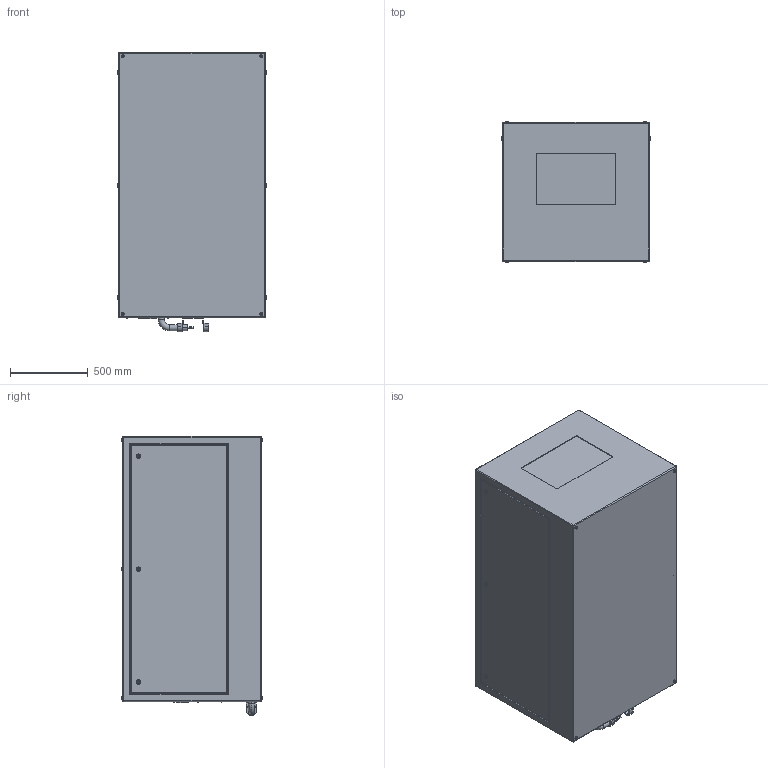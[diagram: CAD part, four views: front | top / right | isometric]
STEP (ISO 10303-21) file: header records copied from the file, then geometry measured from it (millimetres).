
FILE_DESCRIPTION (( 'STEP AP214' ), '1' );
FILE_NAME ('Oasis 59.525.L R02.STEP', '2022-08-27T16:13:57', ( '' ), ( '' ), 'SwSTEP 2.0', 'SolidWorks 2020', '' );
FILE_SCHEMA (( 'AUTOMOTIVE_DESIGN' ));
Length unit declared in the file: inch
Products named in the file (1): Oasis 59.525.L R02
Bounding box: 952.5 x 906.27 x 1790.7 mm (x, y, z)
Volume: 1420515863.5 mm3; surface area: 8417593.1 mm2
Topology: 2 solids, 8 shells, 495 faces, 1129 edges, 714 vertices
Faces by surface type: plane 271, cylinder 170, torus 46, bspline 8
Entity records: 18928 total; most frequent: CARTESIAN_POINT 2851, DIRECTION 2459, ORIENTED_EDGE 2242, EDGE_CURVE 1121, AXIS2_PLACEMENT_3D 882, VERTEX_POINT 714, LINE 695, VECTOR 695
